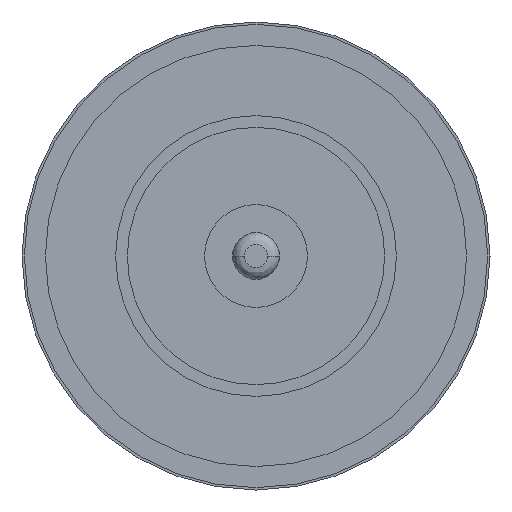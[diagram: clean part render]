
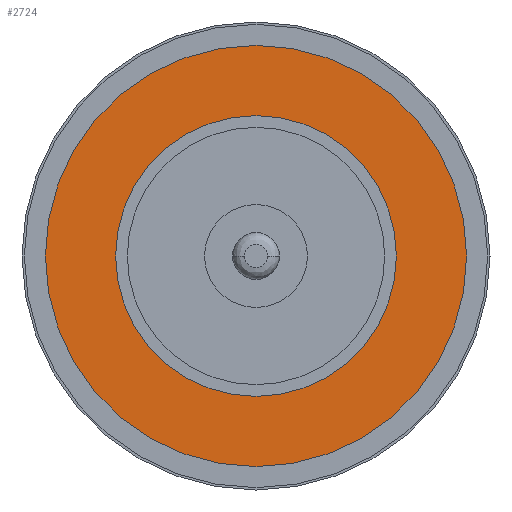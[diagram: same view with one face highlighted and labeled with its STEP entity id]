
A CAD part, left-side view. The second image highlights one B-rep face of the part: STEP entity #2724.
In plain terms, the highlighted planar face has unit normal (-1, 0, 0).
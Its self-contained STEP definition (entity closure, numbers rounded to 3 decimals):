
#239=CARTESIAN_POINT('',(0.,0.,0.));
#240=DIRECTION('',(-1.,0.,0.));
#241=DIRECTION('',(0.,1.,0.));
#242=AXIS2_PLACEMENT_3D('',#239,#240,#241);
#247=CARTESIAN_POINT('',(0.,0.,0.));
#248=DIRECTION('',(1.,0.,0.));
#249=DIRECTION('',(0.,1.,0.));
#250=AXIS2_PLACEMENT_3D('',#247,#248,#249);
#255=CARTESIAN_POINT('',(0.,0.,0.));
#256=DIRECTION('',(1.,0.,0.));
#257=DIRECTION('',(0.,1.,0.));
#258=AXIS2_PLACEMENT_3D('',#255,#256,#257);
#277=CARTESIAN_POINT('',(0.,0.,0.));
#278=DIRECTION('',(-1.,0.,0.));
#279=DIRECTION('',(0.,1.,0.));
#280=AXIS2_PLACEMENT_3D('',#277,#278,#279);
#2184=CARTESIAN_POINT('',(0.,4.5,0.));
#2186=VERTEX_POINT('',#2184);
#2200=CARTESIAN_POINT('',(0.,-4.5,0.));
#2202=VERTEX_POINT('',#2200);
#2203=CARTESIAN_POINT('',(0.,3.,0.));
#2205=VERTEX_POINT('',#2203);
#2223=CARTESIAN_POINT('',(0.,-3.,0.));
#2225=VERTEX_POINT('',#2223);
#2709=CARTESIAN_POINT('',(0.,0.,0.));
#2710=DIRECTION('',(1.,0.,0.));
#2711=DIRECTION('',(0.,-1.,0.));
#2712=AXIS2_PLACEMENT_3D('',#2709,#2710,#2711);
#2713=PLANE('',#2712);
#2714=ORIENTED_EDGE('',*,*,#2702,.F.);
#2715=ORIENTED_EDGE('',*,*,#2691,.T.);
#2716=EDGE_LOOP('',(#2714,#2715));
#2717=FACE_OUTER_BOUND('',#2716,.F.);
#2719=ORIENTED_EDGE('',*,*,#2718,.F.);
#2721=ORIENTED_EDGE('',*,*,#2720,.T.);
#2722=EDGE_LOOP('',(#2719,#2721));
#2723=FACE_BOUND('',#2722,.F.);
#2724=ADVANCED_FACE('',(#2717,#2723),#2713,.F.);
#243=CIRCLE('',#242,4.5);
#251=CIRCLE('',#250,4.5);
#259=CIRCLE('',#258,3.);
#281=CIRCLE('',#280,3.);
#2691=EDGE_CURVE('',#2186,#2202,#251,.T.);
#2702=EDGE_CURVE('',#2186,#2202,#243,.T.);
#2718=EDGE_CURVE('',#2205,#2225,#259,.T.);
#2720=EDGE_CURVE('',#2205,#2225,#281,.T.);
